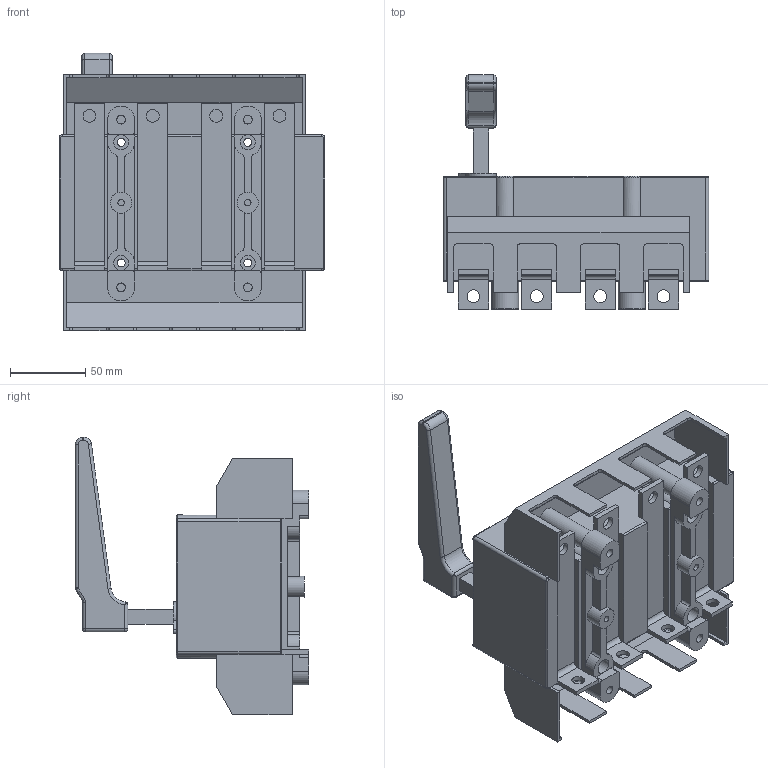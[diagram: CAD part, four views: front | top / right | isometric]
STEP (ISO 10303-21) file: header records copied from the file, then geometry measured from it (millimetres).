
FILE_DESCRIPTION(/* description */ (''),/* implementation_level */ '2;1');
FILE_NAME(/* name */ 'RA250 P3 NB-R z oslona zaciskow.stp',/* time_stamp */ '2021-08-18T08:14:19+02:00',/* author */ (''),/* organization */ (''),/* preprocessor_version */ 'ST-DEVELOPER v18.1',/* originating_system */ 'SIEMENS PLM Software NX 1965',/* authorisation */ '');
FILE_SCHEMA (('AUTOMOTIVE_DESIGN { 1 0 10303 214 3 1 1 1 }'));
Length unit declared in the file: millimetre
Products named in the file (1): RA250 P3 NB-R z oslona zaciskow
Bounding box: 176 x 155 x 183.9 mm (x, y, z)
Volume: 1255820.2 mm3; surface area: 169558.9 mm2
Topology: 1 solids, 1 shells, 362 faces, 1015 edges, 656 vertices
Faces by surface type: plane 186, cylinder 150, torus 12, bspline 8, sphere 6
Full cylindrical faces by diameter (mm): 4.3 x2, 5.3 x4, 5.8 x4, 8.5 x8, 10 x12, 13 x4, 14 x2
Entity records: 11716 total; most frequent: CARTESIAN_POINT 2358, DIRECTION 1969, ORIENTED_EDGE 1898, EDGE_CURVE 949, AXIS2_PLACEMENT_3D 687, VERTEX_POINT 624, LINE 595, VECTOR 595
